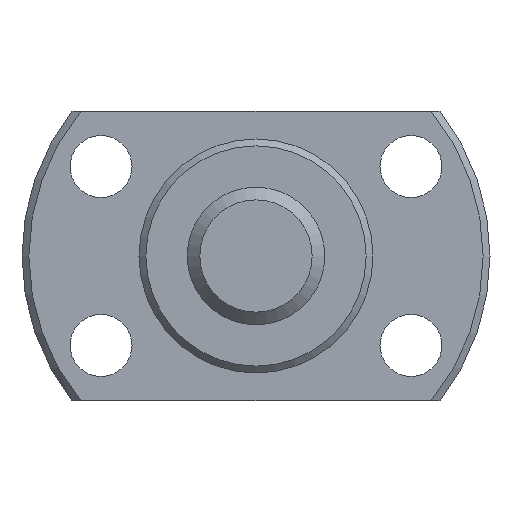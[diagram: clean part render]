
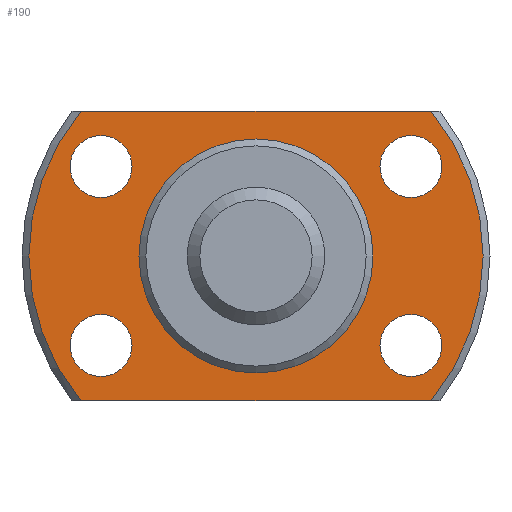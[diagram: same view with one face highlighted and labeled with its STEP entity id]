
A CAD part, left-side view. The second image highlights one B-rep face of the part: STEP entity #190.
In plain terms, the highlighted planar face has unit normal (-1, 0, 0) as drawn and (1, 0, 0) by its records, which use the part's own axes.
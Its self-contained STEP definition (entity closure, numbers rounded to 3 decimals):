
#190 = ADVANCED_FACE( '', ( #263, #264, #265, #266, #267, #268 ), #269, .T. );
#263 = FACE_OUTER_BOUND( '', #373, .T. );
#264 = FACE_BOUND( '', #374, .T. );
#265 = FACE_BOUND( '', #375, .T. );
#266 = FACE_BOUND( '', #376, .T. );
#267 = FACE_BOUND( '', #377, .T. );
#268 = FACE_BOUND( '', #378, .T. );
#269 = PLANE( '', #379 );
#373 = EDGE_LOOP( '', ( #558, #559, #560, #561 ) );
#374 = EDGE_LOOP( '', ( #562 ) );
#375 = EDGE_LOOP( '', ( #563 ) );
#376 = EDGE_LOOP( '', ( #564 ) );
#377 = EDGE_LOOP( '', ( #565 ) );
#378 = EDGE_LOOP( '', ( #566 ) );
#379 = AXIS2_PLACEMENT_3D( '', #567, #568, #569 );
#558 = ORIENTED_EDGE( '', *, *, #712, .T. );
#559 = ORIENTED_EDGE( '', *, *, #714, .T. );
#560 = ORIENTED_EDGE( '', *, *, #716, .T. );
#561 = ORIENTED_EDGE( '', *, *, #717, .T. );
#562 = ORIENTED_EDGE( '', *, *, #718, .F. );
#563 = ORIENTED_EDGE( '', *, *, #719, .F. );
#564 = ORIENTED_EDGE( '', *, *, #720, .F. );
#565 = ORIENTED_EDGE( '', *, *, #721, .F. );
#566 = ORIENTED_EDGE( '', *, *, #722, .F. );
#567 = CARTESIAN_POINT( '', ( 5., 8.3, 0. ) );
#568 = DIRECTION( '', ( 1., 0., 0. ) );
#569 = DIRECTION( '', ( 0., 0., -1. ) );
#712 = EDGE_CURVE( '', #792, #805, #807, .T. );
#714 = EDGE_CURVE( '', #805, #808, #811, .T. );
#716 = EDGE_CURVE( '', #808, #813, #814, .T. );
#717 = EDGE_CURVE( '', #813, #792, #815, .T. );
#718 = EDGE_CURVE( '', #816, #816, #817, .T. );
#719 = EDGE_CURVE( '', #818, #818, #819, .T. );
#720 = EDGE_CURVE( '', #820, #820, #821, .T. );
#721 = EDGE_CURVE( '', #822, #822, #823, .T. );
#722 = EDGE_CURVE( '', #824, #824, #825, .T. );
#792 = VERTEX_POINT( '', #920 );
#805 = VERTEX_POINT( '', #945 );
#807 = LINE( '', #950, #951 );
#808 = VERTEX_POINT( '', #952 );
#811 = CIRCLE( '', #958, 16.5 );
#813 = VERTEX_POINT( '', #960 );
#814 = LINE( '', #961, #962 );
#815 = CIRCLE( '', #963, 16.5 );
#816 = VERTEX_POINT( '', #964 );
#817 = CIRCLE( '', #965, 8.3 );
#818 = VERTEX_POINT( '', #966 );
#819 = CIRCLE( '', #967, 2.25 );
#820 = VERTEX_POINT( '', #968 );
#821 = CIRCLE( '', #969, 2.25 );
#822 = VERTEX_POINT( '', #970 );
#823 = CIRCLE( '', #971, 2.25 );
#824 = VERTEX_POINT( '', #972 );
#825 = CIRCLE( '', #973, 2.25 );
#920 = CARTESIAN_POINT( '', ( 5., -12.728, -10.5 ) );
#945 = CARTESIAN_POINT( '', ( 5., 12.728, -10.5 ) );
#950 = CARTESIAN_POINT( '', ( 5., -17., -10.5 ) );
#951 = VECTOR( '', #1086, 1000. );
#952 = CARTESIAN_POINT( '', ( 5., 12.728, 10.5 ) );
#958 = AXIS2_PLACEMENT_3D( '', #1087, #1088, #1089 );
#960 = CARTESIAN_POINT( '', ( 5., -12.728, 10.5 ) );
#961 = CARTESIAN_POINT( '', ( 5., 17., 10.5 ) );
#962 = VECTOR( '', #1093, 1000. );
#963 = AXIS2_PLACEMENT_3D( '', #1094, #1095, #1096 );
#964 = CARTESIAN_POINT( '', ( 5., 0., -8.3 ) );
#965 = AXIS2_PLACEMENT_3D( '', #1097, #1098, #1099 );
#966 = CARTESIAN_POINT( '', ( 5., 11.258, 4.25 ) );
#967 = AXIS2_PLACEMENT_3D( '', #1100, #1101, #1102 );
#968 = CARTESIAN_POINT( '', ( 5., -11.258, 4.25 ) );
#969 = AXIS2_PLACEMENT_3D( '', #1103, #1104, #1105 );
#970 = CARTESIAN_POINT( '', ( 5., -11.258, -8.75 ) );
#971 = AXIS2_PLACEMENT_3D( '', #1106, #1107, #1108 );
#972 = CARTESIAN_POINT( '', ( 5., 11.258, -8.75 ) );
#973 = AXIS2_PLACEMENT_3D( '', #1109, #1110, #1111 );
#1086 = DIRECTION( '', ( 0., 1., 0. ) );
#1087 = CARTESIAN_POINT( '', ( 5., 0., 0. ) );
#1088 = DIRECTION( '', ( 1., 0., 0. ) );
#1089 = DIRECTION( '', ( 0., 0., -1. ) );
#1093 = DIRECTION( '', ( 0., -1., 0. ) );
#1094 = CARTESIAN_POINT( '', ( 5., 0., 0. ) );
#1095 = DIRECTION( '', ( 1., 0., 0. ) );
#1096 = DIRECTION( '', ( 0., 0., -1. ) );
#1097 = CARTESIAN_POINT( '', ( 5., 0., 0. ) );
#1098 = DIRECTION( '', ( 1., 0., 0. ) );
#1099 = DIRECTION( '', ( 0., 0., -1. ) );
#1100 = CARTESIAN_POINT( '', ( 5., 11.258, 6.5 ) );
#1101 = DIRECTION( '', ( 1., 0., 0. ) );
#1102 = DIRECTION( '', ( 0., 0., -1. ) );
#1103 = CARTESIAN_POINT( '', ( 5., -11.258, 6.5 ) );
#1104 = DIRECTION( '', ( 1., 0., 0. ) );
#1105 = DIRECTION( '', ( 0., 0., -1. ) );
#1106 = CARTESIAN_POINT( '', ( 5., -11.258, -6.5 ) );
#1107 = DIRECTION( '', ( 1., 0., 0. ) );
#1108 = DIRECTION( '', ( 0., 0., -1. ) );
#1109 = CARTESIAN_POINT( '', ( 5., 11.258, -6.5 ) );
#1110 = DIRECTION( '', ( 1., 0., 0. ) );
#1111 = DIRECTION( '', ( 0., 0., -1. ) );
